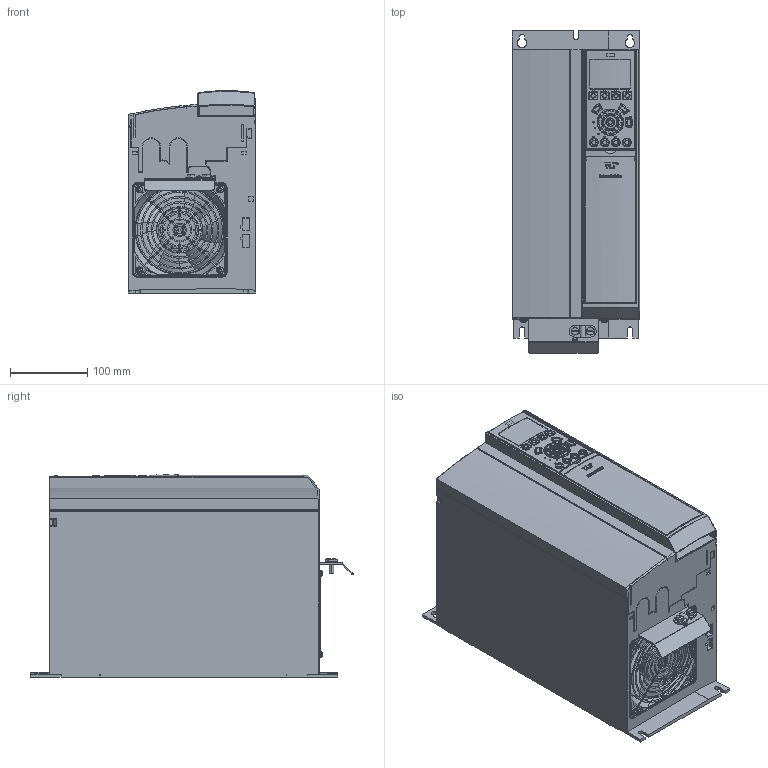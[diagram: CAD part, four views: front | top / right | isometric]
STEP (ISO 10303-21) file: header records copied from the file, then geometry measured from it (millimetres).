
FILE_DESCRIPTION((''),'2;1');
FILE_NAME('DANFOSS-FC300-B3-IP20-B-102','2007-06-14T',('janardhan.mankala'),('dan Drives A/S'),'PRO/ENGINEER BY PARAMETRIC TECHNOLOGY CORPORATION, 2006200','PRO/ENGINEER BY PARAMETRIC TECHNOLOGY CORPORATION, 2006200','');
FILE_SCHEMA(('CONFIG_CONTROL_DESIGN', 'GEOMETRIC_VALIDATION_PROPERTIES_MIM'));
Products named in the file (1): DANFOSS-FC300-B3-IP20-B-102
Bounding box: 165 x 419 x 262.51 mm (x, y, z)
Volume: 14047177.1 mm3; surface area: 529918.6 mm2
Topology: 2 solids, 19 shells, 3815 faces, 9240 edges, 5581 vertices
Faces by surface type: cylinder 1377, plane 1001, bspline 543, torus 479, sphere 174, extrusion 174, cone 67
Entity records: 185325 total; most frequent: CARTESIAN_POINT 61033, ORIENTED_EDGE 18476, DIRECTION 16322, PRESENTATION_STYLE_ASSIGNMENT 10770, STYLED_ITEM 9469, CURVE_STYLE 9238, EDGE_CURVE 9238, AXIS2_PLACEMENT_3D 6171
